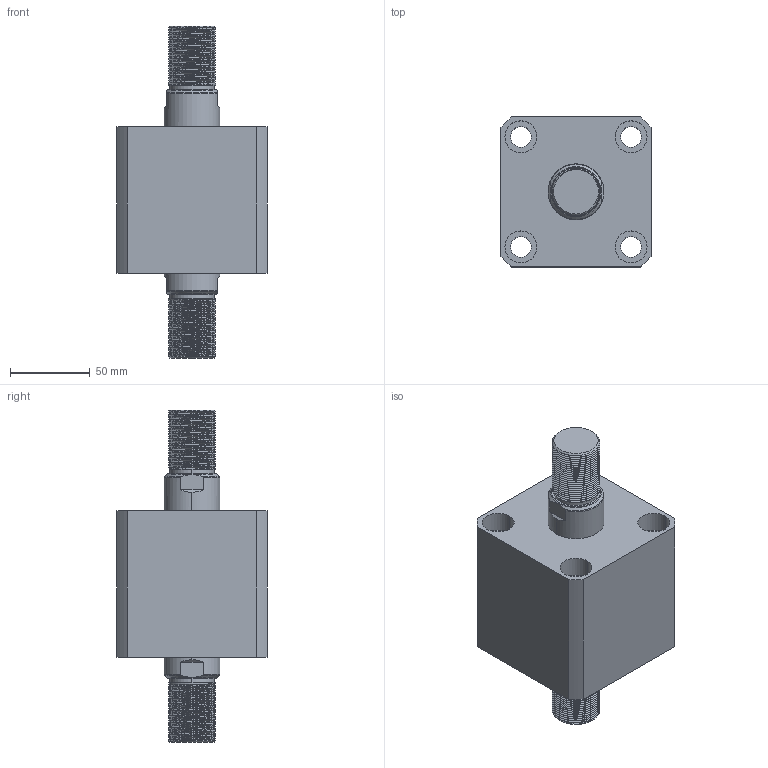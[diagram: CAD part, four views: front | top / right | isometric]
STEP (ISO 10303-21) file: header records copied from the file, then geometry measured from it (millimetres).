
FILE_DESCRIPTION (( 'STEP AP214' ), '1' );
FILE_NAME ('chtb-sw63x10w_asm.STEP', '2018-05-19T03:06:41', ( 'Windows' ), ( 'Microsoft' ), 'SwSTEP 2.0', 'SolidWorks 2015', '' );
FILE_SCHEMA (( 'AUTOMOTIVE_DESIGN' ));
Length unit declared in the file: millimetre
Products named in the file (4): CHTB-SW63X10WHSG; CHTB-SW63X10NBT; CHTB-63QG; chtb-sw63x10w_asm
Assembly tree (3 placements, depth 2):
  chtb-sw63x10w_asm
    CHTB-63QG
    CHTB-SW63X10NBT
    CHTB-SW63X10WHSG
Bounding box: 94 x 94 x 208 mm (x, y, z)
Volume: 798131 mm3; surface area: 138106.8 mm2
Topology: 3 solids, 3 shells, 296 faces, 841 edges, 569 vertices
Faces by surface type: cylinder 206, plane 46, bspline 16, cone 16, torus 12
Entity records: 27380 total; most frequent: CARTESIAN_POINT 20442, ORIENTED_EDGE 1674, DIRECTION 1166, EDGE_CURVE 837, VERTEX_POINT 569, AXIS2_PLACEMENT_3D 453, EDGE_LOOP 334, FACE_OUTER_BOUND 296
